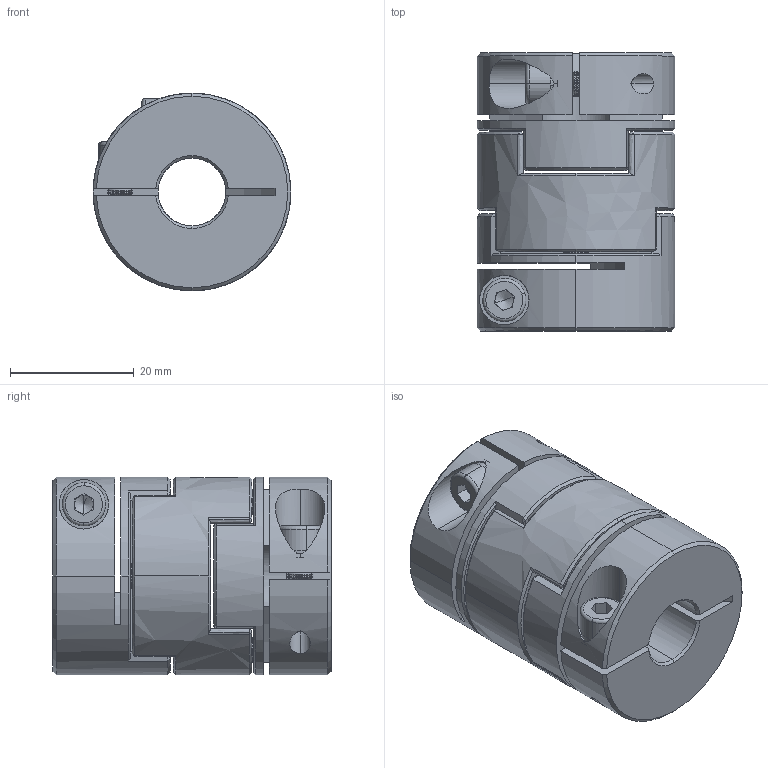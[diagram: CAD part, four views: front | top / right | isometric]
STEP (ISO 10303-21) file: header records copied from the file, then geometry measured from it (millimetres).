
FILE_DESCRIPTION (( 'STEP AP203' ), '1' );
FILE_NAME ('LZ-B-D32L45-11-12.STEP', '2021-10-29T06:46:32', ( '' ), ( '' ), 'SwSTEP 2.0', 'SolidWorks 2018', '' );
FILE_SCHEMA (( 'CONFIG_CONTROL_DESIGN' ));
Length unit declared in the file: millimetre
Products named in the file (1): LZ-B-D32L45-11-12
Bounding box: 32 x 45 x 32 mm (x, y, z)
Volume: 28439.8 mm3; surface area: 13146.9 mm2
Topology: 1 solids, 1 shells, 356 faces, 856 edges, 498 vertices
Faces by surface type: cone 118, cylinder 92, plane 84, bspline 54, torus 8
Entity records: 11145 total; most frequent: CARTESIAN_POINT 3197, ORIENTED_EDGE 1704, DIRECTION 1578, EDGE_CURVE 852, AXIS2_PLACEMENT_3D 619, VERTEX_POINT 498, EDGE_LOOP 382, ADVANCED_FACE 356
